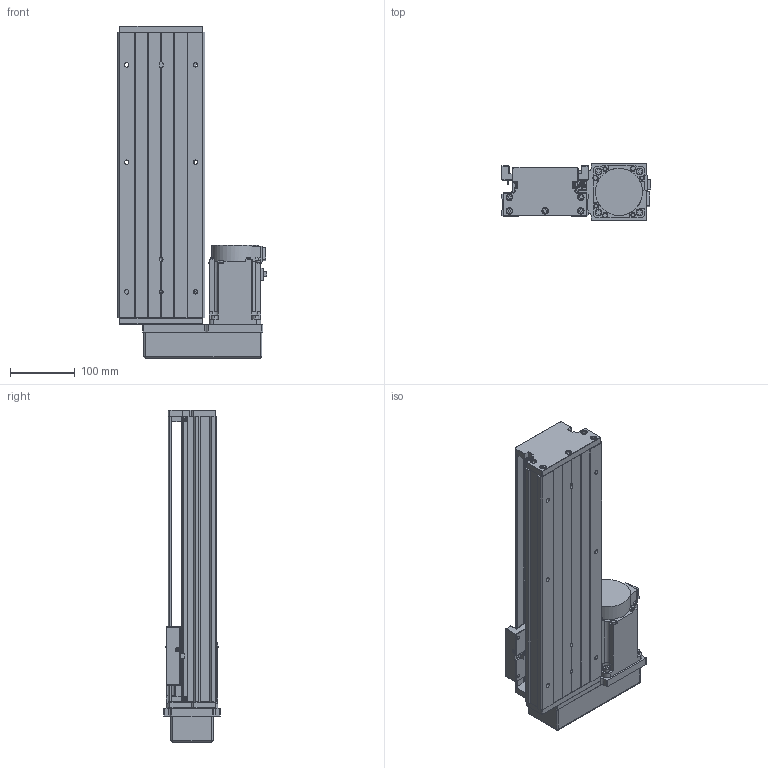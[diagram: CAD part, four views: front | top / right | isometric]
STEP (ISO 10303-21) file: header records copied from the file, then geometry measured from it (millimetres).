
FILE_DESCRIPTION (( 'STEP AP203' ), '1' );
FILE_NAME ('KTH130-300-BR-M75-C4.step', '2023-06-30T04:55:04', ( '微软用户' ), ( '微软中国' ), 'SwSTEP 2.0', 'SolidWorks 2020', '' );
FILE_SCHEMA (( 'CONFIG_CONTROL_DESIGN' ));
Length unit declared in the file: millimetre
Products named in the file (18): CTHA60-017; KTH130-002_KTH130-002; hg-kn73j_-s100; EE_SX911P_R; KTH130-004; CTHA86-015-3_CTHA86-015-4; CTHA60-016; CTHA86-035; KTH130-005; GBT 70.1-M3℅5; KTH130-300-BR-M75-C4; GB1155-6X6; GBT77-2000 M3×3; GBT70.1 M5℅16; す晦芛蹟隊 M3℅5; GBT 70.2-M3¡Á5_M3¡Á6; GTH14-001_300; GBT 70.3-M3℅8
Assembly tree (49 placements, depth 2):
  KTH130-300-BR-M75-C4
    GTH14-001_300
    KTH130-002_KTH130-002
    KTH130-004
    KTH130-005
    GB1155-6X6  x2
    GBT70.1 M5℅16  x10
    GBT 70.2-M3¡Á5_M3¡Á6  x4
    CTHA60-017  x3
    EE_SX911P_R  x3
    CTHA60-016  x2
    GBT 70.1-M3℅5  x6
    GBT77-2000 M3×3  x6
    す晦芛蹟隊 M3℅5  x2
    GBT 70.3-M3℅8  x4
    hg-kn73j_-s100
    CTHA86-015-3_CTHA86-015-4
    CTHA86-035
Bounding box: 230.3 x 87 x 512 mm (x, y, z)
Volume: 3931104 mm3; surface area: 570270.8 mm2
Topology: 52 solids, 52 shells, 2172 faces, 5268 edges, 3295 vertices
Faces by surface type: plane 1204, cylinder 614, cone 238, torus 100, sphere 16
Entity records: 39329 total; most frequent: CARTESIAN_POINT 6622, DIRECTION 6457, ORIENTED_EDGE 6040, EDGE_CURVE 3020, AXIS2_PLACEMENT_3D 2248, LINE 1961, VECTOR 1961, VERTEX_POINT 1929
